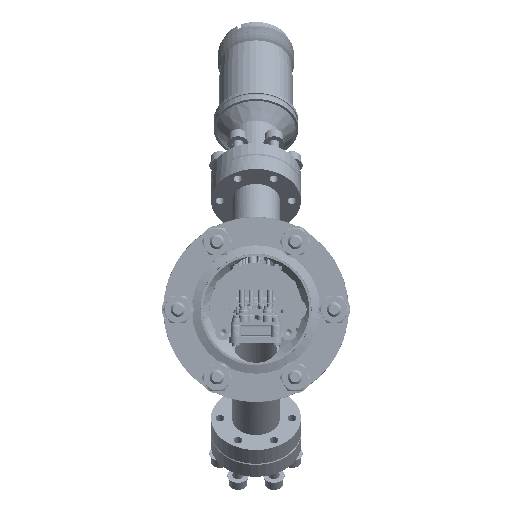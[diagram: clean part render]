
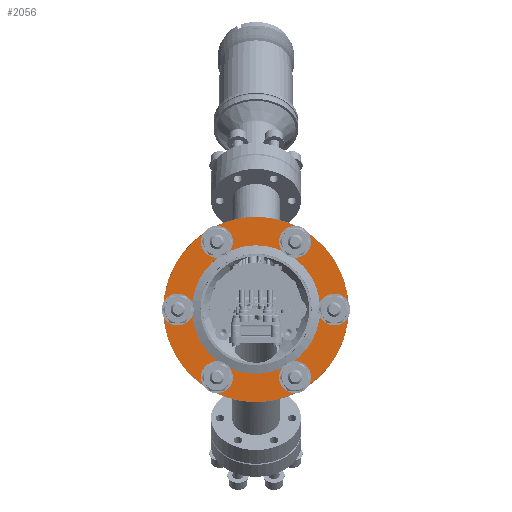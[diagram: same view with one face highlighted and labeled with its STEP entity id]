
A CAD part, left-side view. The second image highlights one B-rep face of the part: STEP entity #2056.
In plain terms, the highlighted planar face has unit normal (-1, 0, 0).
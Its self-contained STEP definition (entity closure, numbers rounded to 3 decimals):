
#1165=AXIS2_PLACEMENT_3D('Circle Axis2P3D',#1163,#1164,$) ;
#1566=AXIS2_PLACEMENT_3D('Circle Axis2P3D',#1564,#1565,$) ;
#1924=AXIS2_PLACEMENT_3D('Plane Axis2P3D',#1921,#1922,#1923) ;
#1932=AXIS2_PLACEMENT_3D('Circle Axis2P3D',#1930,#1931,$) ;
#1941=AXIS2_PLACEMENT_3D('Circle Axis2P3D',#1939,#1940,$) ;
#1950=AXIS2_PLACEMENT_3D('Circle Axis2P3D',#1948,#1949,$) ;
#1959=AXIS2_PLACEMENT_3D('Circle Axis2P3D',#1957,#1958,$) ;
#1968=AXIS2_PLACEMENT_3D('Circle Axis2P3D',#1966,#1967,$) ;
#1977=AXIS2_PLACEMENT_3D('Circle Axis2P3D',#1975,#1976,$) ;
#1986=AXIS2_PLACEMENT_3D('Circle Axis2P3D',#1984,#1985,$) ;
#1995=AXIS2_PLACEMENT_3D('Circle Axis2P3D',#1993,#1994,$) ;
#2004=AXIS2_PLACEMENT_3D('Circle Axis2P3D',#2002,#2003,$) ;
#2013=AXIS2_PLACEMENT_3D('Circle Axis2P3D',#2011,#2012,$) ;
#2022=AXIS2_PLACEMENT_3D('Circle Axis2P3D',#2020,#2021,$) ;
#2031=AXIS2_PLACEMENT_3D('Circle Axis2P3D',#2029,#2030,$) ;
#2040=AXIS2_PLACEMENT_3D('Circle Axis2P3D',#2038,#2039,$) ;
#2049=AXIS2_PLACEMENT_3D('Circle Axis2P3D',#2047,#2048,$) ;
#1160=CARTESIAN_POINT('Vertex',(0.,30.496,16.66)) ;
#1163=CARTESIAN_POINT('Axis2P3D Location',(0.,0.,0.)) ;
#1167=CARTESIAN_POINT('Vertex',(0.,-30.496,-16.66)) ;
#1564=CARTESIAN_POINT('Axis2P3D Location',(0.,0.,0.)) ;
#1921=CARTESIAN_POINT('Axis2P3D Location',(0.,24.1,0.)) ;
#1930=CARTESIAN_POINT('Axis2P3D Location',(0.,-29.35,0.)) ;
#1934=CARTESIAN_POINT('Vertex',(0.,-32.202,-1.558)) ;
#1936=CARTESIAN_POINT('Vertex',(0.,-26.498,1.558)) ;
#1939=CARTESIAN_POINT('Axis2P3D Location',(0.,-29.35,0.)) ;
#1948=CARTESIAN_POINT('Axis2P3D Location',(0.,0.,0.)) ;
#1952=CARTESIAN_POINT('Vertex',(0.,-21.15,-11.554)) ;
#1954=CARTESIAN_POINT('Vertex',(0.,21.15,11.554)) ;
#1957=CARTESIAN_POINT('Axis2P3D Location',(0.,0.,0.)) ;
#1966=CARTESIAN_POINT('Axis2P3D Location',(0.,-14.675,-25.418)) ;
#1970=CARTESIAN_POINT('Vertex',(0.,-11.823,-23.86)) ;
#1972=CARTESIAN_POINT('Vertex',(0.,-17.527,-26.976)) ;
#1975=CARTESIAN_POINT('Axis2P3D Location',(0.,-14.675,-25.418)) ;
#1984=CARTESIAN_POINT('Axis2P3D Location',(0.,14.675,-25.418)) ;
#1988=CARTESIAN_POINT('Vertex',(0.,17.527,-23.86)) ;
#1990=CARTESIAN_POINT('Vertex',(0.,11.823,-26.976)) ;
#1993=CARTESIAN_POINT('Axis2P3D Location',(0.,14.675,-25.418)) ;
#2002=CARTESIAN_POINT('Axis2P3D Location',(0.,29.35,0.)) ;
#2006=CARTESIAN_POINT('Vertex',(0.,32.202,1.558)) ;
#2008=CARTESIAN_POINT('Vertex',(0.,26.498,-1.558)) ;
#2011=CARTESIAN_POINT('Axis2P3D Location',(0.,29.35,0.)) ;
#2020=CARTESIAN_POINT('Axis2P3D Location',(0.,14.675,25.418)) ;
#2024=CARTESIAN_POINT('Vertex',(0.,17.527,26.976)) ;
#2026=CARTESIAN_POINT('Vertex',(0.,11.823,23.86)) ;
#2029=CARTESIAN_POINT('Axis2P3D Location',(0.,14.675,25.418)) ;
#2038=CARTESIAN_POINT('Axis2P3D Location',(0.,-14.675,25.418)) ;
#2042=CARTESIAN_POINT('Vertex',(0.,-11.823,26.976)) ;
#2044=CARTESIAN_POINT('Vertex',(0.,-17.527,23.86)) ;
#2047=CARTESIAN_POINT('Axis2P3D Location',(0.,-14.675,25.418)) ;
#1164=DIRECTION('Axis2P3D Direction',(1.,0.,-0.)) ;
#1565=DIRECTION('Axis2P3D Direction',(1.,0.,-0.)) ;
#1922=DIRECTION('Axis2P3D Direction',(1.,0.,0.)) ;
#1923=DIRECTION('Axis2P3D XDirection',(0.,1.,0.)) ;
#1931=DIRECTION('Axis2P3D Direction',(1.,0.,0.)) ;
#1940=DIRECTION('Axis2P3D Direction',(1.,0.,0.)) ;
#1949=DIRECTION('Axis2P3D Direction',(1.,0.,0.)) ;
#1958=DIRECTION('Axis2P3D Direction',(1.,0.,0.)) ;
#1967=DIRECTION('Axis2P3D Direction',(1.,0.,0.)) ;
#1976=DIRECTION('Axis2P3D Direction',(1.,0.,0.)) ;
#1985=DIRECTION('Axis2P3D Direction',(1.,0.,0.)) ;
#1994=DIRECTION('Axis2P3D Direction',(1.,0.,0.)) ;
#2003=DIRECTION('Axis2P3D Direction',(1.,0.,0.)) ;
#2012=DIRECTION('Axis2P3D Direction',(1.,0.,0.)) ;
#2021=DIRECTION('Axis2P3D Direction',(1.,0.,0.)) ;
#2030=DIRECTION('Axis2P3D Direction',(1.,0.,0.)) ;
#2039=DIRECTION('Axis2P3D Direction',(1.,0.,0.)) ;
#2048=DIRECTION('Axis2P3D Direction',(1.,0.,0.)) ;
#1927=ORIENTED_EDGE('',*,*,#1169,.F.) ;
#1928=ORIENTED_EDGE('',*,*,#1568,.F.) ;
#1945=ORIENTED_EDGE('',*,*,#1938,.T.) ;
#1946=ORIENTED_EDGE('',*,*,#1943,.T.) ;
#1963=ORIENTED_EDGE('',*,*,#1956,.T.) ;
#1964=ORIENTED_EDGE('',*,*,#1961,.T.) ;
#1981=ORIENTED_EDGE('',*,*,#1974,.T.) ;
#1982=ORIENTED_EDGE('',*,*,#1979,.T.) ;
#1999=ORIENTED_EDGE('',*,*,#1992,.T.) ;
#2000=ORIENTED_EDGE('',*,*,#1997,.T.) ;
#2017=ORIENTED_EDGE('',*,*,#2010,.T.) ;
#2018=ORIENTED_EDGE('',*,*,#2015,.T.) ;
#2035=ORIENTED_EDGE('',*,*,#2028,.T.) ;
#2036=ORIENTED_EDGE('',*,*,#2033,.T.) ;
#2053=ORIENTED_EDGE('',*,*,#2046,.T.) ;
#2054=ORIENTED_EDGE('',*,*,#2051,.T.) ;
#1947=FACE_BOUND('',#1944,.T.) ;
#1965=FACE_BOUND('',#1962,.T.) ;
#1983=FACE_BOUND('',#1980,.T.) ;
#2001=FACE_BOUND('',#1998,.T.) ;
#2019=FACE_BOUND('',#2016,.T.) ;
#2037=FACE_BOUND('',#2034,.T.) ;
#2055=FACE_BOUND('',#2052,.T.) ;
#2056=ADVANCED_FACE('Brep With Voids.1',(#1929,#1947,#1965,#1983,#2001,#2019,#2037,#2055),#1925,.F.) ;
#1166=CIRCLE('generated circle',#1165,34.75) ;
#1567=CIRCLE('generated circle',#1566,34.75) ;
#1933=CIRCLE('generated circle',#1932,3.25) ;
#1942=CIRCLE('generated circle',#1941,3.25) ;
#1951=CIRCLE('generated circle',#1950,24.1) ;
#1960=CIRCLE('generated circle',#1959,24.1) ;
#1969=CIRCLE('generated circle',#1968,3.25) ;
#1978=CIRCLE('generated circle',#1977,3.25) ;
#1987=CIRCLE('generated circle',#1986,3.25) ;
#1996=CIRCLE('generated circle',#1995,3.25) ;
#2005=CIRCLE('generated circle',#2004,3.25) ;
#2014=CIRCLE('generated circle',#2013,3.25) ;
#2023=CIRCLE('generated circle',#2022,3.25) ;
#2032=CIRCLE('generated circle',#2031,3.25) ;
#2041=CIRCLE('generated circle',#2040,3.25) ;
#2050=CIRCLE('generated circle',#2049,3.25) ;
#1169=EDGE_CURVE('',#1161,#1168,#1166,.T.) ;
#1568=EDGE_CURVE('',#1168,#1161,#1567,.T.) ;
#1938=EDGE_CURVE('',#1935,#1937,#1933,.T.) ;
#1943=EDGE_CURVE('',#1937,#1935,#1942,.T.) ;
#1956=EDGE_CURVE('',#1953,#1955,#1951,.T.) ;
#1961=EDGE_CURVE('',#1955,#1953,#1960,.T.) ;
#1974=EDGE_CURVE('',#1971,#1973,#1969,.T.) ;
#1979=EDGE_CURVE('',#1973,#1971,#1978,.T.) ;
#1992=EDGE_CURVE('',#1989,#1991,#1987,.T.) ;
#1997=EDGE_CURVE('',#1991,#1989,#1996,.T.) ;
#2010=EDGE_CURVE('',#2007,#2009,#2005,.T.) ;
#2015=EDGE_CURVE('',#2009,#2007,#2014,.T.) ;
#2028=EDGE_CURVE('',#2025,#2027,#2023,.T.) ;
#2033=EDGE_CURVE('',#2027,#2025,#2032,.T.) ;
#2046=EDGE_CURVE('',#2043,#2045,#2041,.T.) ;
#2051=EDGE_CURVE('',#2045,#2043,#2050,.T.) ;
#1926=EDGE_LOOP('',(#1927,#1928)) ;
#1944=EDGE_LOOP('',(#1945,#1946)) ;
#1962=EDGE_LOOP('',(#1963,#1964)) ;
#1980=EDGE_LOOP('',(#1981,#1982)) ;
#1998=EDGE_LOOP('',(#1999,#2000)) ;
#2016=EDGE_LOOP('',(#2017,#2018)) ;
#2034=EDGE_LOOP('',(#2035,#2036)) ;
#2052=EDGE_LOOP('',(#2053,#2054)) ;
#1929=FACE_OUTER_BOUND('',#1926,.T.) ;
#1925=PLANE('',#1924) ;
#1161=VERTEX_POINT('',#1160) ;
#1168=VERTEX_POINT('',#1167) ;
#1935=VERTEX_POINT('',#1934) ;
#1937=VERTEX_POINT('',#1936) ;
#1953=VERTEX_POINT('',#1952) ;
#1955=VERTEX_POINT('',#1954) ;
#1971=VERTEX_POINT('',#1970) ;
#1973=VERTEX_POINT('',#1972) ;
#1989=VERTEX_POINT('',#1988) ;
#1991=VERTEX_POINT('',#1990) ;
#2007=VERTEX_POINT('',#2006) ;
#2009=VERTEX_POINT('',#2008) ;
#2025=VERTEX_POINT('',#2024) ;
#2027=VERTEX_POINT('',#2026) ;
#2043=VERTEX_POINT('',#2042) ;
#2045=VERTEX_POINT('',#2044) ;
